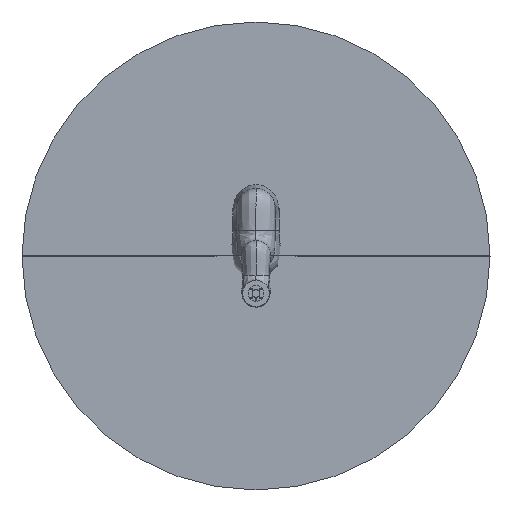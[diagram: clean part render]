
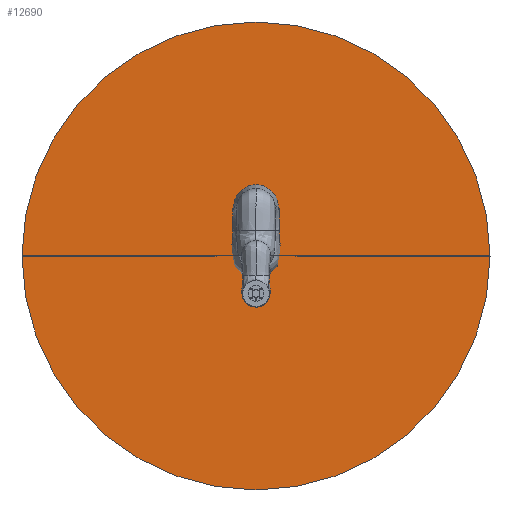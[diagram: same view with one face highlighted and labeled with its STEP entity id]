
A CAD part, top view. The second image highlights one B-rep face of the part: STEP entity #12690.
In plain terms, the highlighted planar face has unit normal (0, 0, 1).
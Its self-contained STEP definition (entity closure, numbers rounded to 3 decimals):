
#12690 = ADVANCED_FACE ( 'NONE', ( #155752 ), #53730, .T. ) ;
#13701 = ORIENTED_EDGE ( 'NONE', *, *, #97365, .T. ) ;
#13752 = ORIENTED_EDGE ( 'NONE', *, *, #97401, .F. ) ;
#13761 = ORIENTED_EDGE ( 'NONE', *, *, #97384, .F. ) ;
#13830 = ORIENTED_EDGE ( 'NONE', *, *, #97278, .T. ) ;
#13881 = ORIENTED_EDGE ( 'NONE', *, *, #97380, .F. ) ;
#13911 = ORIENTED_EDGE ( 'NONE', *, *, #97403, .T. ) ;
#13968 = ORIENTED_EDGE ( 'NONE', *, *, #97362, .T. ) ;
#13977 = ORIENTED_EDGE ( 'NONE', *, *, #97142, .F. ) ;
#18748 = AXIS2_PLACEMENT_3D ( 'NONE', #53814, #53817, #53757 ) ;
#28751 = LINE ( 'NONE', #39710, #28805 ) ;
#28805 = VECTOR ( 'NONE', #39719, 1000. ) ;
#28842 = LINE ( 'NONE', #40281, #28891 ) ;
#28891 = VECTOR ( 'NONE', #40353, 1000. ) ;
#28996 = VECTOR ( 'NONE', #41702, 1000. ) ;
#29010 = VECTOR ( 'NONE', #41633, 1000. ) ;
#29013 = VECTOR ( 'NONE', #38563, 1000. ) ;
#29042 = CIRCLE ( 'NONE', #131400, 925. ) ;
#29045 = VECTOR ( 'NONE', #38582, 1000. ) ;
#29066 = LINE ( 'NONE', #38675, #29013 ) ;
#29087 = LINE ( 'NONE', #41604, #28996 ) ;
#29109 = CIRCLE ( 'NONE', #131464, 925. ) ;
#29112 = LINE ( 'NONE', #41583, #29010 ) ;
#29114 = LINE ( 'NONE', #38618, #29045 ) ;
#38563 = DIRECTION ( 'NONE',  ( -1., 0., 0. ) ) ;
#38582 = DIRECTION ( 'NONE',  ( -1., 0., 0. ) ) ;
#38618 = CARTESIAN_POINT ( 'NONE',  ( 0., -0.1, 350.1 ) ) ;
#38675 = CARTESIAN_POINT ( 'NONE',  ( 0., 0., 350.1 ) ) ;
#39710 = CARTESIAN_POINT ( 'NONE',  ( 166.063, -0.1, 350.1 ) ) ;
#39719 = DIRECTION ( 'NONE',  ( 0., -1., 0. ) ) ;
#40281 = CARTESIAN_POINT ( 'NONE',  ( 0., -0.1, 350.1 ) ) ;
#40353 = DIRECTION ( 'NONE',  ( -1., 0., 0. ) ) ;
#41301 = DIRECTION ( 'NONE',  ( 0., 0., 1. ) ) ;
#41411 = DIRECTION ( 'NONE',  ( 1., 0., 0. ) ) ;
#41426 = CARTESIAN_POINT ( 'NONE',  ( 0., 0., 350.1 ) ) ;
#41451 = DIRECTION ( 'NONE',  ( 1., 0., 0. ) ) ;
#41507 = CARTESIAN_POINT ( 'NONE',  ( 0., 0., 350.1 ) ) ;
#41510 = DIRECTION ( 'NONE',  ( 0., 0., 1. ) ) ;
#41583 = CARTESIAN_POINT ( 'NONE',  ( 0., 0., 350.1 ) ) ;
#41604 = CARTESIAN_POINT ( 'NONE',  ( -166.063, -0.1, 350.1 ) ) ;
#41633 = DIRECTION ( 'NONE',  ( -1., 0., 0. ) ) ;
#41702 = DIRECTION ( 'NONE',  ( 0., 1., 0. ) ) ;
#53730 = PLANE ( 'NONE',  #18748 ) ;
#53757 = DIRECTION ( 'NONE',  ( 1., 0., 0. ) ) ;
#53814 = CARTESIAN_POINT ( 'NONE',  ( 0., 0., 350.1 ) ) ;
#53817 = DIRECTION ( 'NONE',  ( 0., 0., 1. ) ) ;
#97142 = EDGE_CURVE ( 'NONE', #152552, #152429, #28751, .T. ) ;
#97278 = EDGE_CURVE ( 'NONE', #152457, #152430, #28842, .T. ) ;
#97362 = EDGE_CURVE ( 'NONE', #152515, #152437, #29109, .T. ) ;
#97365 = EDGE_CURVE ( 'NONE', #152430, #152438, #29042, .T. ) ;
#97380 = EDGE_CURVE ( 'NONE', #152457, #152539, #29087, .T. ) ;
#97384 = EDGE_CURVE ( 'NONE', #152515, #152552, #29112, .T. ) ;
#97401 = EDGE_CURVE ( 'NONE', #152539, #152437, #29066, .T. ) ;
#97403 = EDGE_CURVE ( 'NONE', #152438, #152429, #29114, .T. ) ;
#131400 = AXIS2_PLACEMENT_3D ( 'NONE', #41426, #41301, #41451 ) ;
#131464 = AXIS2_PLACEMENT_3D ( 'NONE', #41507, #41510, #41411 ) ;
#151923 = EDGE_LOOP ( 'NONE', ( #13701, #13911, #13977, #13761, #13968, #13752, #13881, #13830 ) ) ;
#152429 = VERTEX_POINT ( 'NONE', #154468 ) ;
#152430 = VERTEX_POINT ( 'NONE', #154436 ) ;
#152437 = VERTEX_POINT ( 'NONE', #154490 ) ;
#152438 = VERTEX_POINT ( 'NONE', #154523 ) ;
#152457 = VERTEX_POINT ( 'NONE', #154518 ) ;
#152515 = VERTEX_POINT ( 'NONE', #154542 ) ;
#152539 = VERTEX_POINT ( 'NONE', #154622 ) ;
#152552 = VERTEX_POINT ( 'NONE', #154625 ) ;
#154436 = CARTESIAN_POINT ( 'NONE',  ( -925., -0.1, 350.1 ) ) ;
#154468 = CARTESIAN_POINT ( 'NONE',  ( 166.063, -0.1, 350.1 ) ) ;
#154490 = CARTESIAN_POINT ( 'NONE',  ( -925., 0., 350.1 ) ) ;
#154518 = CARTESIAN_POINT ( 'NONE',  ( -166.063, -0.1, 350.1 ) ) ;
#154523 = CARTESIAN_POINT ( 'NONE',  ( 925., -0.1, 350.1 ) ) ;
#154542 = CARTESIAN_POINT ( 'NONE',  ( 925., 0., 350.1 ) ) ;
#154622 = CARTESIAN_POINT ( 'NONE',  ( -166.063, 0., 350.1 ) ) ;
#154625 = CARTESIAN_POINT ( 'NONE',  ( 166.063, 0., 350.1 ) ) ;
#155752 = FACE_OUTER_BOUND ( 'NONE', #151923, .T. ) ;
